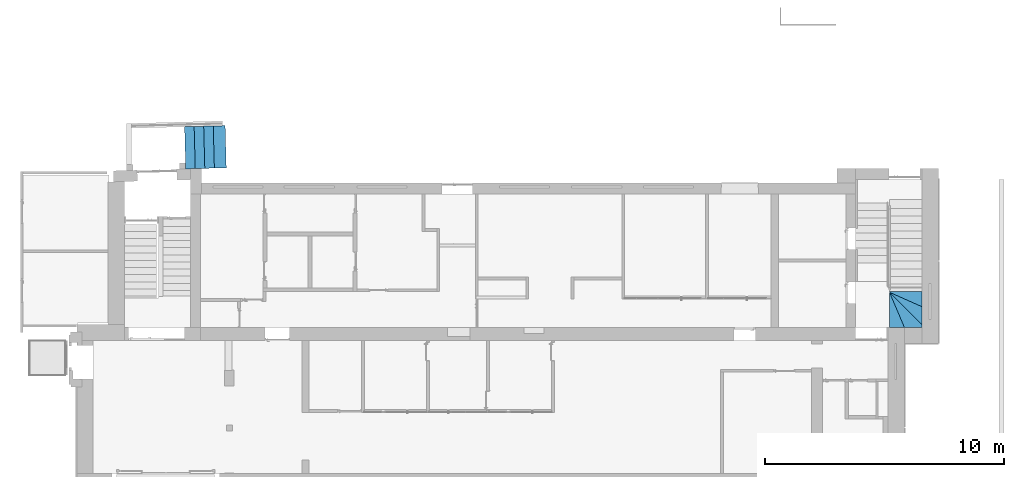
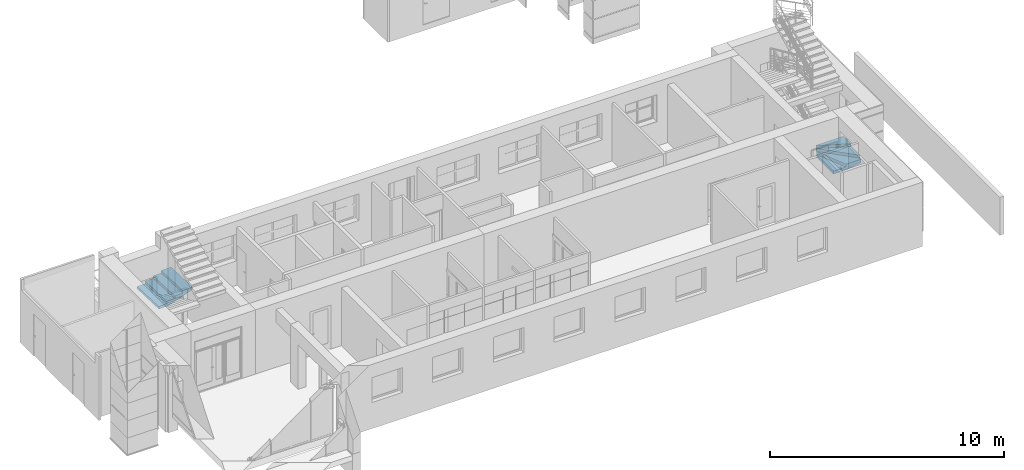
# One storey, part 42 of 49: 2 stair flights, 2 elements without a shape of their own.
"""IFC2X3 building model written with IfcOpenShell, lengths in millimetres."""

from ifc_helpers import new_model, entity, si_unit, converted_unit, derived_unit, direction, frame, origin, place, context, subcontext, project, spatial, faceted_brep, element, aggregate, save


model = new_model("IFC2X3")

# Units and contexts
model_context = context("Model", 3, precision=0.01, world=origin(), true_north=direction((6.12303176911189e-17, 1.0)))
body_context = subcontext(model_context, "Body", "Model", "MODEL_VIEW")
ifc_project = project(units=[si_unit("LENGTHUNIT", "METRE", prefix="MILLI"), si_unit("AREAUNIT", "SQUARE_METRE"), si_unit("VOLUMEUNIT", "CUBIC_METRE"), converted_unit("PLANEANGLEUNIT", "DEGREE", entity("IfcRatioMeasure", 0.0174532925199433), si_unit("PLANEANGLEUNIT", "RADIAN"), dimensions=[0, 0, 0, 0, 0, 0, 0]), si_unit("MASSUNIT", "GRAM", prefix="KILO"), derived_unit("MASSDENSITYUNIT", [(si_unit("MASSUNIT", "GRAM", prefix="KILO"), 1), (si_unit("LENGTHUNIT", "METRE"), -3)]), si_unit("TIMEUNIT", "SECOND"), si_unit("FREQUENCYUNIT", "HERTZ"), si_unit("THERMODYNAMICTEMPERATUREUNIT", "DEGREE_CELSIUS"), derived_unit("THERMALTRANSMITTANCEUNIT", [(si_unit("MASSUNIT", "GRAM", prefix="KILO"), 1), (si_unit("THERMODYNAMICTEMPERATUREUNIT", "KELVIN"), -1), (si_unit("TIMEUNIT", "SECOND"), -3)]), derived_unit("VOLUMETRICFLOWRATEUNIT", [(si_unit("LENGTHUNIT", "METRE"), 3), (si_unit("TIMEUNIT", "SECOND"), -1)]), si_unit("ELECTRICCURRENTUNIT", "AMPERE"), si_unit("ELECTRICVOLTAGEUNIT", "VOLT"), si_unit("POWERUNIT", "WATT"), si_unit("FORCEUNIT", "NEWTON", prefix="KILO"), si_unit("ILLUMINANCEUNIT", "LUX"), si_unit("LUMINOUSFLUXUNIT", "LUMEN"), si_unit("LUMINOUSINTENSITYUNIT", "CANDELA"), derived_unit("USERDEFINED", [(si_unit("MASSUNIT", "GRAM", prefix="KILO"), -1), (si_unit("LENGTHUNIT", "METRE"), -2), (si_unit("TIMEUNIT", "SECOND"), 3), (si_unit("LUMINOUSFLUXUNIT", "LUMEN"), 1)]), derived_unit("LINEARVELOCITYUNIT", [(si_unit("LENGTHUNIT", "METRE"), 1), (si_unit("TIMEUNIT", "SECOND"), -1)]), si_unit("PRESSUREUNIT", "PASCAL"), derived_unit("USERDEFINED", [(si_unit("LENGTHUNIT", "METRE"), -2), (si_unit("MASSUNIT", "GRAM", prefix="KILO"), 1), (si_unit("TIMEUNIT", "SECOND"), -2)])], contexts=[model_context])

# Site, building, storey
site_placement = place(None, frame((-151.875543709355, 2715.0, 0.0)))
site = spatial("IfcSite", under=ifc_project, at=site_placement, Name="Surface", CompositionType="ELEMENT")
building_placement = place(site_placement, origin())
building = spatial("IfcBuilding", under=site, at=building_placement, CompositionType="ELEMENT")
storey_placement = place(building_placement, origin())
storey = spatial("IfcBuildingStorey", under=building, at=storey_placement, Name="1 korrus", CompositionType="ELEMENT", Elevation=3.0969999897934e-10)

# Stair, stair flight
stair_1_placement = place(storey_placement, origin())
stair_1 = element("IfcStair", 1, at=stair_1_placement, inside=storey, Name="Precast Stair:Stair", ObjectType="Precast Stair", ShapeType="NOTDEFINED")
stair_flight_1_placement = place(stair_1_placement, frame((4290.41169963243, 13203.9846582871, 0.0)))
stair_flight_1 = element("IfcStairFlight", 2, at=stair_flight_1_placement, Name="Precast Stair:Stair:834397 Run 1", ObjectType="Precast Stair:Uus betoonist välistrepp", NumberOfRiser=4, NumberOfTreads=4, RiserHeight=0.430610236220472, TreadLength=1.31233595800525, context=body_context, shape_type="Brep", body=[
    faceted_brep([(399.855591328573, 1773.95248137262, -622.75), (0.0, 1763.20510572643, -622.75), (47.3916784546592, 0.0, -622.75), (447.247269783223, 10.7473756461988, -622.75), (399.855591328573, 1773.95248137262, -754.0), (0.0, 1763.20510572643, -754.0), (47.3916784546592, 0.0, -754.0), (447.247269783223, 10.7473756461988, -754.0), (799.711182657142, 1784.69985701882, -491.5), (399.855591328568, 1773.95248137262, -491.5), (447.247269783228, 10.7473756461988, -491.5), (847.102861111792, 21.4947512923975, -491.5), (799.711182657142, 1784.69985701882, -649.368569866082), (480.949564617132, 1776.13213675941, -754.0), (528.34124307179, 12.9270310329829, -754.0), (847.102861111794, 21.4947512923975, -649.368569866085), (1199.56677398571, 1795.44723266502, -360.25), (799.711182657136, 1784.69985701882, -360.25), (847.102861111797, 21.4947512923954, -360.25), (1246.95845244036, 32.2421269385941, -360.25), (1199.56677398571, 1795.44723266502, -518.118569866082), (1246.95845244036, 32.2421269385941, -518.118569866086), (1599.42236531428, 1806.19460831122, -386.868569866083), (1646.81404376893, 42.9895025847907, -386.868569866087), (1746.77794160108, 45.6763464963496, -329.0), (1646.81404376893, 42.9895025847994, -329.0), (1599.42236531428, 1806.19460831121, -329.0), (1699.38626314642, 1808.88145222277, -329.0), (1699.38626314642, 1808.88145222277, -229.0), (1746.77794160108, 45.6763464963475, -229.0), (1199.5667739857, 1795.44723266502, -229.0), (1246.95845244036, 32.242126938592, -229.0)], [[[0, 1, 2, 3]], [[1, 0, 4, 5]], [[2, 1, 5, 6]], [[3, 2, 6, 7]], [[8, 9, 10, 11]], [[4, 0, 9, 8, 12, 13]], [[0, 3, 10, 9]], [[3, 7, 14, 15, 11, 10]], [[16, 17, 18, 19]], [[17, 16, 20, 12, 8]], [[8, 11, 18, 17]], [[19, 18, 11, 15, 21]], [[5, 4, 13, 14, 7, 6]], [[14, 13, 12, 20, 22, 23, 21, 15]], [[24, 25, 26, 27]], [[24, 27, 28, 29]], [[30, 31, 29, 28]], [[30, 28, 27, 26, 22, 20, 16]], [[16, 19, 31, 30]], [[29, 31, 19, 21, 23, 25, 24]], [[23, 22, 26, 25]]]),
])
aggregate(stair_1, [stair_flight_1])

stair_2_placement = place(storey_placement, origin())
stair_2 = element("IfcStair", 3, at=stair_2_placement, inside=storey, Name="Precast Stair:Stair", ObjectType="Precast Stair", ShapeType="NOTDEFINED")
stair_flight_2_placement = place(stair_2_placement, frame((33800.7054853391, 6568.40472776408, 0.0)))
stair_flight_2 = element("IfcStairFlight", 4, at=stair_flight_2_placement, Name="Precast Stair:Stair:836183 Run 1", ObjectType="Precast Stair:Uus betoonist sisestrepp", NumberOfRiser=5, NumberOfTreads=4, RiserHeight=0.482283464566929, TreadLength=1.31233595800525, context=body_context, shape_type="Brep", body=[
    faceted_brep([(11.5198428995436, 1447.12050321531, 147.0), (6.65921777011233, 1445.61123899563, 147.0), (1.5952722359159, 1445.101326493, 147.0), (1.59527223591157, 1.59527223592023, 147.0), (625.10889964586, 1.59527223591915, 147.0), (1.5952722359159, 1445.101326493, 0.0), (1.59527223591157, 1.59527223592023, 0.0), (1.5952722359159, 1470.501326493, 588.0), (1.5952722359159, 1505.50132649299, 588.0), (1.5952722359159, 1505.50132649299, 422.956888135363), (1.5952722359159, 1500.04745151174, 398.967926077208), (1.59527223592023, 1494.5935765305, 374.978964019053), (1.5952722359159, 1488.75059554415, 349.278512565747), (1.59527223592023, 1482.44237172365, 323.93316533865), (1.5952722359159, 1476.47184910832, 299.944642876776), (1.5952722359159, 1470.50132649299, 275.956120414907), (625.10889964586, 1.59527223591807, 0.0), (708.541157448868, 1.59527223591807, 0.0), (890.630722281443, 1.59527223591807, 34.7423197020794), (1072.72028711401, 1.59527223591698, 69.4846394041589), (1217.90810176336, 1.5952722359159, 91.9394642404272), (1365.91078286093, 1.5952722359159, 114.829637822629), (1365.91078286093, 1.5952722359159, 294.0), (625.10889964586, 1.59527223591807, 294.0), (15.798771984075, 1449.4437721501, 294.0), (11.5198428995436, 1447.12050321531, 294.0), (1365.91078286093, 106.185815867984, 294.0), (19.5557844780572, 1452.54081425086, 294.0), (1365.91078286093, 53.9610538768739, 121.767076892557), (1365.91078286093, 106.18581586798, 128.956120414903), (1365.91078286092, 236.460151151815, 151.362901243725), (1365.91078286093, 366.734486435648, 173.769682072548), (1365.91078286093, 528.523475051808, 201.596885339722), (1365.91078286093, 612.159837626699, 220.186694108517), (1365.91078286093, 695.79620020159, 238.776502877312), (1365.91078286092, 779.432562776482, 257.366311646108), (1365.91078286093, 863.068925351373, 275.956120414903), (1365.91078286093, 971.34680426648, 299.756834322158), (1365.91078286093, 1079.62468318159, 323.557548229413), (1365.91078286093, 1220.70123415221, 354.567784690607), (1365.91078286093, 1363.1012803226, 388.762271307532), (1365.91078286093, 1505.50132649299, 422.956757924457), (1365.91078286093, 1505.50132649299, 588.0), (1365.91078286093, 863.068925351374, 588.0), (1365.91078286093, 863.068925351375, 441.0), (1365.91078286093, 106.18581586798, 441.0), (24.7993268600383, 1460.17021575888, 441.0), (22.5280774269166, 1456.11460807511, 441.0), (19.5557844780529, 1452.54081425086, 441.0), (399.234656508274, 644.26839187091, 0.0), (476.561281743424, 483.600111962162, 0.0), (553.887906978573, 322.931832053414, 0.0), (631.214532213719, 162.263552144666, 0.0), (6.65921777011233, 1445.61123899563, 0.0), (11.5198428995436, 1447.12050321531, 0.0), (12.0680247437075, 1447.36085426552, 0.0), (12.610390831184, 1447.61405574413, 0.0), (111.682285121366, 1241.75792162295, 0.0), (205.922523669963, 1045.94122380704, 0.0), (302.578590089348, 845.104807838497, 0.0), (16.2910217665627, 1449.78430581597, 64.4780650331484), (19.5557844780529, 1452.54081425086, 128.956120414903), (18.9196344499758, 1452.00369928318, 116.392353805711), (17.9234031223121, 1451.16256003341, 96.7170927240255), (14.4507062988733, 1448.69918078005, 32.2390325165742), (363.975040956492, 856.309226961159, 32.3439407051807), (1066.72078109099, 405.375817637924, 128.956120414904), (1018.76607477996, 251.52663097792, 94.498941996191), (856.89323890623, 498.466472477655, 104.530324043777), (829.912870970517, 373.763284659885, 75.9168592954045), (906.880593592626, 172.346952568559, 61.4064007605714), (744.67305786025, 307.921719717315, 46.00256498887), (1210.16083860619, 261.935760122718, 128.956120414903), (1216.31578197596, 255.780816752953, 128.956120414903), (1213.04331347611, 131.993941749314, 109.895128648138), (767.530783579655, 704.565815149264, 128.956120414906), (910.970838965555, 561.125759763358, 128.956120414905), (917.125780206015, 554.970818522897, 128.956120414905), (1054.41089435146, 417.68570437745, 128.956120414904), (326.027512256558, 1010.49386565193, 63.4372027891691), (460.447870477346, 836.341167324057, 68.0715837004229), (734.498776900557, 156.050101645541, 23.0021555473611), (630.903863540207, 349.810364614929, 24.1574994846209), (245.851624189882, 1195.13941166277, 106.061880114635), (141.304315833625, 1299.73918581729, 90.7900254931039), (131.899627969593, 1326.7207746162, 110.143613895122), (634.589059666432, 715.532519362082, 95.3965399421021), (585.991822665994, 828.608171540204, 111.016208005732), (278.469118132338, 957.887101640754, 17.8688358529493), (462.91836186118, 701.567725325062, 35.1546992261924), (632.375339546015, 571.669808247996, 62.5412275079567), (730.666821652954, 548.950071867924, 84.5134303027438), (414.511841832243, 991.338939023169, 100.575694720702), (342.641308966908, 1129.45528976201, 128.956120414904), (630.851052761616, 468.03540785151, 42.8727944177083), (147.19226102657, 1245.76820611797, 48.3586117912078), (84.8049291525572, 1317.59624063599, 19.073166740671), (245.354569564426, 1155.08537219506, 80.1622196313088), (181.098558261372, 1290.99804046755, 128.956120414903), (331.055707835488, 1141.04089089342, 128.956120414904), (397.872945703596, 959.771967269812, 80.9009340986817), (511.452208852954, 851.736235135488, 92.1260010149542), (549.293245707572, 922.803353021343, 128.956120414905), (555.086057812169, 917.01054091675, 128.956120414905), (825.903897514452, 149.743991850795, 41.8854517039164), (525.570101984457, 531.161079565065, 23.0718848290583), (177.65470669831, 1153.61791472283, 22.4251721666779), (282.884249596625, 1012.07127582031, 38.9712793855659), (137.190985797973, 1284.44884422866, 69.3861847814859), (175.305746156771, 1296.79085257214, 128.956120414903), (22.5280774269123, 1456.11460807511, 202.456120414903), (21.5151830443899, 1454.89675007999, 177.409077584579), (24.7993268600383, 1460.17021575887, 275.956120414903), (23.663696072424, 1458.14241608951, 239.206120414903), (320.454659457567, 1236.37005559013, 189.932708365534), (223.973264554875, 1277.75517498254, 157.539308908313), (157.147162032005, 1356.28304999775, 189.932648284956), (20.5354837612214, 1453.71878216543, 153.182598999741), (357.466548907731, 1180.03761236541, 169.406835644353), (373.645344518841, 1134.32340515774, 149.256649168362), (1245.56416806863, 511.37982276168, 180.526158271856), (1194.15480540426, 441.573731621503, 158.446007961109), (557.311350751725, 1117.50859511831, 216.989524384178), (389.556353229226, 1215.63078421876, 210.836401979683), (444.073003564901, 1212.78492261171, 232.428114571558), (756.029943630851, 1041.82073923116, 236.714180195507), (727.879632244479, 1007.99946050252, 216.531974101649), (599.564256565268, 1130.28616193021, 236.490738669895), (218.652757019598, 1334.86535184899, 219.951995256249), (1182.28468493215, 857.553433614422, 251.903906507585), (960.558319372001, 967.818528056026, 250.311323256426), (1067.88601735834, 995.758099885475, 275.956120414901), (1008.67216120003, 565.701450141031, 150.392739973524), (806.223887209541, 743.989883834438, 149.40276913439), (477.032002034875, 1129.15148711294, 194.215042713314), (1209.04387876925, 721.274238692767, 221.217786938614), (256.245831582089, 1336.87448108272, 250.136371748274), (501.686870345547, 1215.21282147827, 254.647921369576), (583.595766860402, 1211.37801142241, 275.956120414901), (693.562883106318, 1119.52502367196, 255.68962762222), (648.926938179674, 887.126007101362, 149.782521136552), (637.268728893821, 951.653152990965, 169.403327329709), (778.272869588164, 831.826596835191, 167.939816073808), (635.816001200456, 1025.85440454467, 198.718129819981), (826.865814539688, 905.924280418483, 203.32079308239), (1080.11210363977, 605.645903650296, 172.875109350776), (949.60435306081, 763.066297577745, 186.835471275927), (1130.54324544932, 672.357328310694, 197.139117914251), (923.224126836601, 702.982804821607, 165.4478855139), (1018.27540946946, 809.117255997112, 212.638972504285), (211.064806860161, 1377.23948098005, 275.956120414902), (397.33028686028, 1294.30874620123, 275.956120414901), (909.336414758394, 927.403473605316, 227.712690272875), (769.861246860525, 1128.44727664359, 275.9561204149), (1075.69514550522, 848.263015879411, 233.366324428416), (495.01275889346, 1053.30217961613, 162.449418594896), (607.957721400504, 1505.50132649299, 422.957643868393), (986.934252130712, 1505.50132638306, 422.957200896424), (304.776496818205, 1505.50132638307, 422.957266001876), (231.763910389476, 1451.48255274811, 362.175672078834), (254.373742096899, 1422.44397702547, 336.773945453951), (984.202086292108, 1152.35836139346, 310.222396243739), (362.144988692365, 1362.07789764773, 312.18185227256), (454.470438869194, 1364.31013108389, 331.832988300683), (455.553044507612, 1395.5009645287, 351.474694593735), (599.353529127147, 1252.00206620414, 297.119088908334), (657.816704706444, 1321.92496562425, 337.042536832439), (696.873329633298, 1372.07480007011, 363.038702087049), (312.028285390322, 1354.58780434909, 293.101880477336), (913.875887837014, 1290.20094376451, 347.870683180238), (466.914235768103, 1470.98639230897, 400.718641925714), (464.478033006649, 1431.15370635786, 375.070796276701), (234.179083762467, 1472.85382772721, 386.273680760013), (786.379475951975, 1445.72179177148, 398.697712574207), (1077.08235168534, 1422.31309729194, 397.70468387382), (596.446479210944, 1296.45425567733, 317.335020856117), (1130.73756469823, 1284.88748010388, 359.550505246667), (1134.76099016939, 1190.46674564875, 333.696201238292), (815.724194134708, 1243.52544285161, 322.786583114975), (1199.10733961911, 1078.03538080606, 309.52683800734), (268.293208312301, 1487.46081413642, 404.639874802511), (944.915161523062, 1360.90317495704, 373.62716177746), (1153.64059638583, 1351.84841482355, 379.36545436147)], [[[0, 1, 2, 3, 4]], [[3, 2, 5, 6]], [[7, 8, 9, 10, 11, 12, 13, 14, 15]], [[4, 3, 6, 16, 17, 18, 19, 20, 21, 22, 23]], [[24, 25, 23, 22, 26, 27]], [[23, 25, 0, 4]], [[26, 22, 21, 28, 29, 30, 31, 32, 33, 34, 35, 36, 37, 38, 39, 40, 41, 42, 43, 44, 45]], [[46, 47, 48, 45, 44]], [[45, 48, 27, 26]], [[49, 50, 51, 52, 17, 16, 6, 5, 53, 54, 55, 56, 57, 58, 59]], [[2, 1, 53, 5]], [[0, 54, 53, 1]], [[0, 55, 54]], [[0, 25, 24]], [[56, 55, 0]], [[0, 24, 60]], [[27, 61, 24]], [[24, 61, 62, 63, 60]], [[0, 60, 64, 56]], [[49, 59, 65]], [[66, 67, 68]], [[69, 70, 71]], [[67, 66, 72, 73]], [[20, 74, 21]], [[68, 75, 76, 77, 78, 66]], [[79, 80, 65]], [[81, 82, 71]], [[17, 81, 18]], [[28, 74, 29]], [[20, 19, 67]], [[29, 74, 73]], [[74, 28, 21]], [[83, 84, 85]], [[86, 87, 75]], [[86, 75, 68]], [[58, 88, 59]], [[89, 80, 90]], [[67, 69, 68]], [[86, 90, 80]], [[69, 90, 91]], [[92, 83, 93]], [[91, 68, 69]], [[71, 82, 94]], [[81, 52, 82]], [[64, 60, 95]], [[56, 64, 96]], [[65, 80, 89]], [[97, 79, 95]], [[83, 98, 99, 93]], [[80, 100, 101]], [[92, 93, 102, 103]], [[101, 87, 86]], [[79, 100, 80]], [[18, 81, 104]], [[89, 105, 49]], [[90, 69, 71]], [[70, 67, 19]], [[52, 51, 82]], [[104, 71, 70]], [[67, 70, 69]], [[18, 70, 19]], [[51, 50, 49, 105]], [[71, 94, 90]], [[105, 94, 82]], [[105, 89, 94]], [[89, 90, 94]], [[51, 105, 82]], [[88, 106, 107]], [[108, 84, 97]], [[96, 95, 106]], [[106, 58, 57]], [[96, 106, 57]], [[95, 107, 106]], [[56, 96, 57]], [[95, 96, 64]], [[88, 65, 59]], [[106, 88, 58]], [[65, 88, 107]], [[65, 107, 79]], [[65, 89, 49]], [[20, 67, 74]], [[67, 73, 74]], [[95, 79, 107]], [[100, 97, 92]], [[97, 100, 79]], [[101, 100, 92]], [[87, 92, 103]], [[80, 101, 86]], [[92, 87, 101]], [[75, 87, 103]], [[60, 63, 84]], [[98, 83, 85]], [[92, 97, 83]], [[84, 83, 97]], [[97, 95, 108]], [[62, 61, 85, 63]], [[95, 60, 108]], [[60, 84, 108]], [[85, 61, 109, 98]], [[63, 85, 84]], [[90, 86, 91]], [[68, 91, 86]], [[81, 17, 52]], [[71, 104, 81]], [[70, 18, 104]], [[27, 110, 111]], [[47, 110, 27, 48]], [[47, 112, 113]], [[112, 47, 46]], [[114, 115, 116]], [[109, 117, 115]], [[115, 118, 119]], [[120, 31, 121]], [[122, 123, 124]], [[125, 126, 127]], [[114, 116, 128]], [[129, 130, 131]], [[132, 76, 133]], [[110, 116, 111]], [[123, 134, 114]], [[135, 129, 34]], [[128, 136, 124]], [[128, 116, 110]], [[137, 138, 139]], [[140, 141, 142]], [[133, 140, 142]], [[143, 126, 144]], [[145, 146, 147]], [[127, 126, 122]], [[36, 129, 131]], [[121, 72, 66, 78]], [[146, 148, 142]], [[132, 148, 145]], [[146, 144, 149]], [[136, 112, 150, 151]], [[114, 118, 115]], [[119, 99, 115]], [[111, 116, 115]], [[124, 123, 128]], [[110, 113, 128]], [[137, 127, 124]], [[128, 113, 136]], [[135, 34, 33, 32]], [[129, 36, 35, 34]], [[152, 144, 126]], [[153, 131, 130]], [[147, 135, 32]], [[75, 140, 133]], [[119, 102, 93, 99]], [[130, 152, 125]], [[152, 154, 149]], [[130, 125, 139]], [[154, 130, 129]], [[152, 149, 144]], [[149, 147, 146]], [[141, 144, 142]], [[148, 146, 145]], [[142, 144, 146]], [[135, 147, 149]], [[120, 147, 32]], [[135, 149, 154]], [[130, 154, 152]], [[135, 154, 129]], [[75, 133, 76]], [[133, 142, 148]], [[145, 121, 132]], [[145, 120, 121]], [[132, 78, 77, 76]], [[30, 29, 73, 72]], [[78, 132, 121]], [[30, 121, 31]], [[121, 30, 72]], [[132, 133, 148]], [[140, 75, 103, 102]], [[102, 155, 140]], [[141, 140, 155]], [[134, 141, 155]], [[144, 141, 143]], [[147, 120, 145]], [[32, 31, 120]], [[122, 126, 143]], [[152, 126, 125]], [[134, 123, 122]], [[122, 124, 127]], [[134, 122, 143]], [[128, 123, 114]], [[141, 134, 143]], [[118, 134, 155]], [[153, 139, 138]], [[139, 125, 127]], [[137, 136, 151]], [[136, 137, 124]], [[151, 138, 137]], [[137, 139, 127]], [[130, 139, 153]], [[134, 118, 114]], [[119, 118, 155]], [[102, 119, 155]], [[115, 99, 98, 109]], [[117, 109, 61]], [[112, 136, 113]], [[117, 111, 115]], [[42, 8, 7, 43]], [[44, 43, 7, 15, 112, 46]], [[8, 42, 156]], [[42, 41, 157]], [[8, 156, 158]], [[12, 159, 160]], [[112, 15, 14, 150]], [[131, 153, 161]], [[14, 13, 162]], [[160, 162, 13]], [[163, 160, 164]], [[164, 160, 159]], [[165, 153, 138, 151]], [[161, 153, 165]], [[166, 164, 167]], [[160, 13, 12]], [[165, 151, 168]], [[168, 14, 162]], [[11, 159, 12]], [[167, 169, 166]], [[170, 171, 172]], [[171, 159, 172]], [[170, 173, 171]], [[170, 156, 173]], [[157, 174, 173]], [[14, 168, 150]], [[151, 150, 168]], [[165, 168, 162]], [[175, 162, 163]], [[169, 176, 177]], [[176, 39, 177]], [[165, 175, 178]], [[38, 179, 177]], [[172, 159, 11]], [[159, 171, 164]], [[180, 9, 158]], [[170, 180, 158]], [[170, 158, 156]], [[170, 172, 180]], [[181, 167, 173]], [[156, 157, 173]], [[174, 181, 173]], [[40, 174, 41]], [[172, 11, 10]], [[182, 39, 176]], [[167, 164, 171]], [[163, 164, 166]], [[173, 167, 171]], [[167, 181, 169]], [[176, 169, 181]], [[169, 177, 178]], [[41, 174, 157]], [[181, 182, 176]], [[181, 174, 182]], [[177, 39, 38]], [[36, 131, 37]], [[178, 177, 161]], [[174, 40, 182]], [[39, 182, 40]], [[175, 163, 166]], [[162, 160, 163]], [[178, 175, 166]], [[162, 175, 165]], [[169, 178, 166]], [[165, 178, 161]], [[179, 38, 37]], [[131, 161, 179]], [[131, 179, 37]], [[177, 179, 161]], [[172, 10, 180]], [[9, 180, 10]], [[27, 111, 117, 61]], [[47, 113, 110]], [[42, 157, 156]], [[8, 158, 9]]]),
])
aggregate(stair_2, [stair_flight_2])

save(model, "model.ifc")
